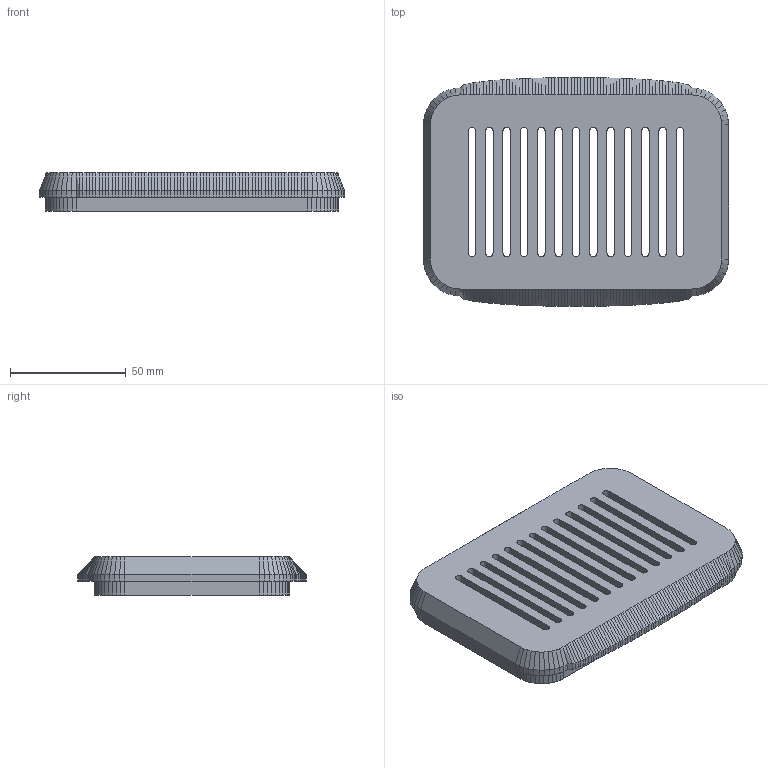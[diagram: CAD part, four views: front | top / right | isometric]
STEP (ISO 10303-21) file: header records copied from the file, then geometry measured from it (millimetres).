
FILE_DESCRIPTION(('Open CASCADE Model'),'2;1');
FILE_NAME('Open CASCADE Shape Model','2026-10-16T13:32:09',('Author'),( 'Open CASCADE'),'Open CASCADE STEP processor 7.9','Open CASCADE 7.9' ,'Unknown');
FILE_SCHEMA(('AUTOMOTIVE_DESIGN { 1 0 10303 214 1 1 1 1 }'));
Length unit declared in the file: millimetre
Products named in the file (1): Open CASCADE STEP translator 7.9 10
Bounding box: 132 x 99 x 16.5 mm (x, y, z)
Volume: 109104.8 mm3; surface area: 43561.1 mm2
Topology: 1 solids, 1 shells, 528 faces, 1384 edges, 860 vertices
Faces by surface type: plane 318, bspline 184, cylinder 26
Entity records: 32718 total; most frequent: CARTESIAN_POINT 7593, DIRECTION 3654, LINE 2860, VECTOR 2860, ORIENTED_EDGE 2768, PCURVE 2768, DEFINITIONAL_REPRESENTATION 2768, EDGE_CURVE 1384
